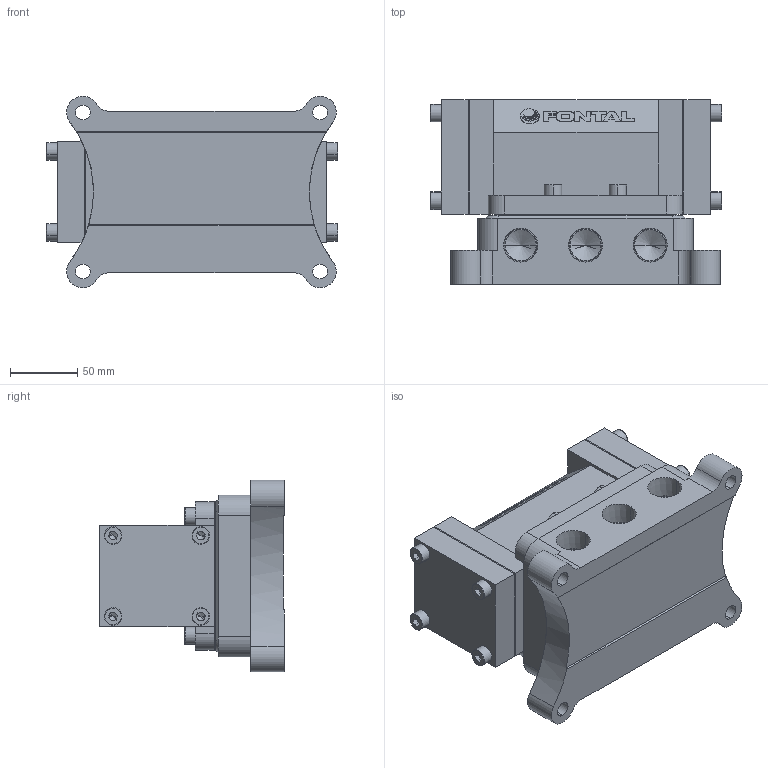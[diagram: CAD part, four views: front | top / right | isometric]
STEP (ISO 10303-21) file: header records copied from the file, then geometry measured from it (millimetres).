
FILE_DESCRIPTION (( 'STEP AP203' ), '1' );
FILE_NAME ('VMS2425-06.STEP', '2016-01-13T18:35:01', ( '' ), ( '' ), 'SwSTEP 2.0', 'SolidWorks 2014', '' );
FILE_SCHEMA (( 'CONFIG_CONTROL_DESIGN' ));
Length unit declared in the file: millimetre
Products named in the file (9): PM25-MARK-24; PMS2425-2; PMS2425-3; PMS2425-4; VMS2425-06; PMS2425-1; VMS2425-1; PM25底座-1; ISO 4762 M8
Assembly tree (20 placements, depth 2):
  VMS2425-06
    PMS2425-1
    PMS2425-2  x2
    ISO 4762 M8  x12
    PMS2425-4
    PMS2425-3
    PM25-MARK-24
    PM25底座-1
    VMS2425-1
Bounding box: 216 x 137 x 142 mm (x, y, z)
Volume: 2222631.1 mm3; surface area: 271027.8 mm2
Topology: 26 solids, 26 shells, 593 faces, 1380 edges, 841 vertices
Faces by surface type: plane 326, cylinder 139, cone 72, torus 48, bspline 8
Entity records: 10089 total; most frequent: CARTESIAN_POINT 1663, DIRECTION 1526, ORIENTED_EDGE 1436, EDGE_CURVE 718, AXIS2_PLACEMENT_3D 531, VERTEX_POINT 470, VECTOR 464, LINE 464
